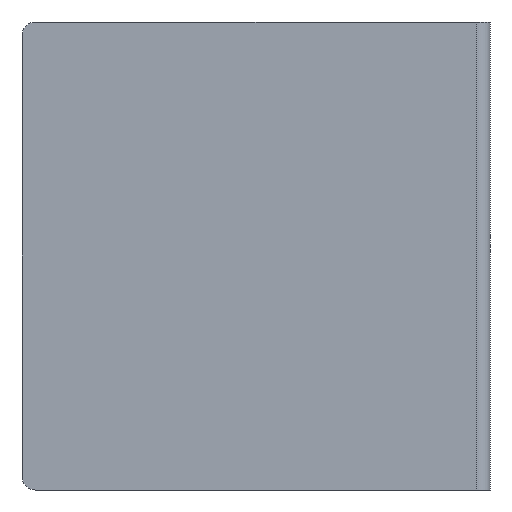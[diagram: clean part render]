
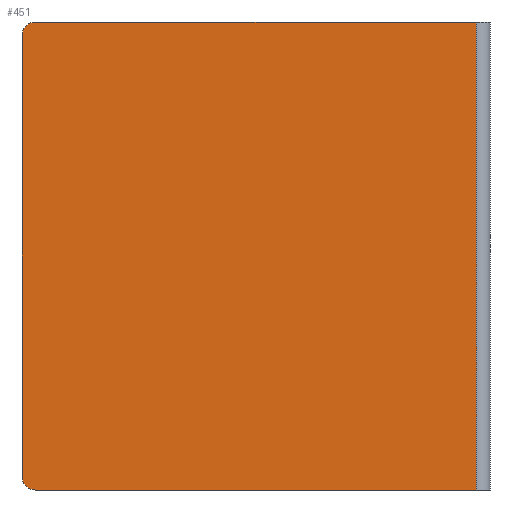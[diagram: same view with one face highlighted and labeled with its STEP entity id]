
A CAD part, front view. The second image highlights one B-rep face of the part: STEP entity #451.
In plain terms, the highlighted planar face has unit normal (0, -1, 0).
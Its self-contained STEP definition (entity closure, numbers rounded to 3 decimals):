
#2 = DIRECTION ( 'NONE',  ( 0., 1., 0. ) ) ;
#20 = DIRECTION ( 'NONE',  ( 0., 0., 1. ) ) ;
#48 = ORIENTED_EDGE ( 'NONE', *, *, #114, .T. ) ;
#52 = CARTESIAN_POINT ( 'NONE',  ( 49.233, -180., 52. ) ) ;
#99 = DIRECTION ( 'NONE',  ( 0., -1., 0. ) ) ;
#114 = EDGE_CURVE ( 'NONE', #978, #247, #654, .T. ) ;
#120 = EDGE_CURVE ( 'NONE', #1011, #867, #664, .T. ) ;
#124 = AXIS2_PLACEMENT_3D ( 'NONE', #748, #752, #666 ) ;
#129 = ORIENTED_EDGE ( 'NONE', *, *, #930, .T. ) ;
#148 = ORIENTED_EDGE ( 'NONE', *, *, #695, .T. ) ;
#180 = DIRECTION ( 'NONE',  ( 0., 0., 1. ) ) ;
#192 = AXIS2_PLACEMENT_3D ( 'NONE', #576, #99, #180 ) ;
#234 = CARTESIAN_POINT ( 'NONE',  ( -51.767, -180., 49. ) ) ;
#247 = VERTEX_POINT ( 'NONE', #52 ) ;
#264 = CIRCLE ( 'NONE', #192, 3. ) ;
#313 = CARTESIAN_POINT ( 'NONE',  ( 52.233, -180., -52. ) ) ;
#323 = LINE ( 'NONE', #409, #554 ) ;
#330 = CIRCLE ( 'NONE', #124, 3. ) ;
#341 = CARTESIAN_POINT ( 'NONE',  ( 49.233, -180., -52. ) ) ;
#345 = VECTOR ( 'NONE', #20, 1000. ) ;
#398 = VERTEX_POINT ( 'NONE', #785 ) ;
#400 = CARTESIAN_POINT ( 'NONE',  ( -51.767, -180., -49. ) ) ;
#405 = CARTESIAN_POINT ( 'NONE',  ( 52.233, -180., -52. ) ) ;
#409 = CARTESIAN_POINT ( 'NONE',  ( 52.233, -180., 52. ) ) ;
#414 = EDGE_LOOP ( 'NONE', ( #907, #129, #595, #48, #965, #148 ) ) ;
#451 = ADVANCED_FACE ( 'NONE', ( #909 ), #819, .F. ) ;
#473 = VECTOR ( 'NONE', #816, 1000. ) ;
#527 = CARTESIAN_POINT ( 'NONE',  ( -48.767, -180., -52. ) ) ;
#554 = VECTOR ( 'NONE', #975, 1000. ) ;
#566 = CARTESIAN_POINT ( 'NONE',  ( 49.233, -180., -52. ) ) ;
#573 = DIRECTION ( 'NONE',  ( 0., 0., 1. ) ) ;
#576 = CARTESIAN_POINT ( 'NONE',  ( -48.767, -180., -49. ) ) ;
#595 = ORIENTED_EDGE ( 'NONE', *, *, #821, .F. ) ;
#649 = CARTESIAN_POINT ( 'NONE',  ( -51.767, -180., -52. ) ) ;
#654 = LINE ( 'NONE', #341, #345 ) ;
#664 = LINE ( 'NONE', #649, #473 ) ;
#666 = DIRECTION ( 'NONE',  ( 0., 0., 1. ) ) ;
#695 = EDGE_CURVE ( 'NONE', #398, #867, #330, .T. ) ;
#704 = LINE ( 'NONE', #313, #902 ) ;
#748 = CARTESIAN_POINT ( 'NONE',  ( -48.767, -180., 49. ) ) ;
#752 = DIRECTION ( 'NONE',  ( 0., -1., 0. ) ) ;
#782 = DIRECTION ( 'NONE',  ( -1., 0., 0. ) ) ;
#785 = CARTESIAN_POINT ( 'NONE',  ( -48.767, -180., 52. ) ) ;
#816 = DIRECTION ( 'NONE',  ( 0., 0., 1. ) ) ;
#819 = PLANE ( 'NONE',  #1040 ) ;
#821 = EDGE_CURVE ( 'NONE', #978, #872, #704, .T. ) ;
#867 = VERTEX_POINT ( 'NONE', #234 ) ;
#872 = VERTEX_POINT ( 'NONE', #527 ) ;
#902 = VECTOR ( 'NONE', #782, 1000. ) ;
#907 = ORIENTED_EDGE ( 'NONE', *, *, #120, .F. ) ;
#909 = FACE_OUTER_BOUND ( 'NONE', #414, .T. ) ;
#924 = EDGE_CURVE ( 'NONE', #247, #398, #323, .T. ) ;
#930 = EDGE_CURVE ( 'NONE', #1011, #872, #264, .T. ) ;
#965 = ORIENTED_EDGE ( 'NONE', *, *, #924, .T. ) ;
#975 = DIRECTION ( 'NONE',  ( -1., 0., 0. ) ) ;
#978 = VERTEX_POINT ( 'NONE', #566 ) ;
#1011 = VERTEX_POINT ( 'NONE', #400 ) ;
#1040 = AXIS2_PLACEMENT_3D ( 'NONE', #405, #2, #573 ) ;
